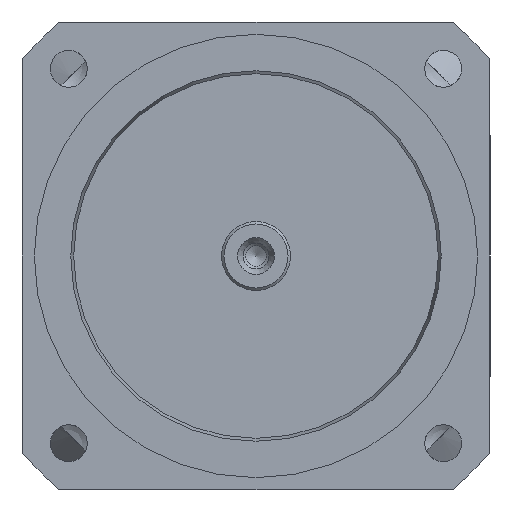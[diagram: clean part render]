
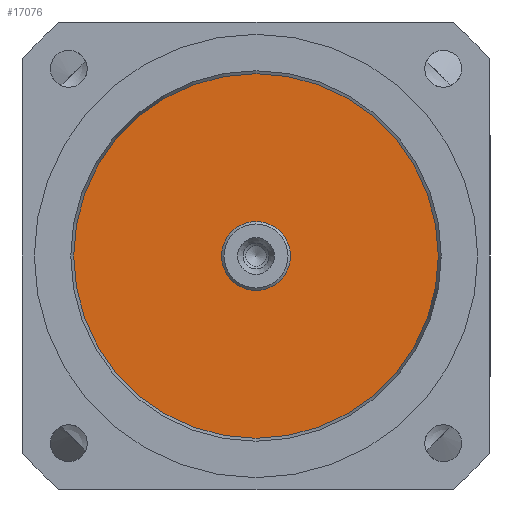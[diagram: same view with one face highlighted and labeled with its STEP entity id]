
A CAD part, left-side view. The second image highlights one B-rep face of the part: STEP entity #17076.
In plain terms, the highlighted planar face has unit normal (-1, 0, 0).
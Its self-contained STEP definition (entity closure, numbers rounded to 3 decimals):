
#3497=PLANE('',#18294);
#4164=FACE_BOUND('',#5502,.T.);
#4423=FACE_OUTER_BOUND('',#5501,.T.);
#5501=EDGE_LOOP('',(#12254));
#5502=EDGE_LOOP('',(#12255));
#6713=CIRCLE('',#18286,14.);
#6717=CIRCLE('',#18295,74.);
#7964=VERTEX_POINT('',#26079);
#7971=VERTEX_POINT('',#26101);
#9642=EDGE_CURVE('',#7964,#7964,#6713,.T.);
#9652=EDGE_CURVE('',#7971,#7971,#6717,.T.);
#12254=ORIENTED_EDGE('',*,*,#9652,.F.);
#12255=ORIENTED_EDGE('',*,*,#9642,.T.);
#17076=ADVANCED_FACE('',(#4423,#4164),#3497,.T.);
#18286=AXIS2_PLACEMENT_3D('',#26080,#20718,#20719);
#18294=AXIS2_PLACEMENT_3D('',#26100,#20740,#20741);
#18295=AXIS2_PLACEMENT_3D('',#26102,#20742,#20743);
#20718=DIRECTION('center_axis',(1.,0.,0.));
#20719=DIRECTION('ref_axis',(0.,0.,-1.));
#20740=DIRECTION('center_axis',(-1.,0.,0.));
#20741=DIRECTION('ref_axis',(0.,0.,1.));
#20742=DIRECTION('center_axis',(1.,0.,0.));
#20743=DIRECTION('ref_axis',(0.,1.,0.));
#26079=CARTESIAN_POINT('',(-130.,0.,14.));
#26080=CARTESIAN_POINT('Origin',(-130.,0.,0.));
#26100=CARTESIAN_POINT('Origin',(-130.,37.,0.));
#26101=CARTESIAN_POINT('',(-130.,74.,0.));
#26102=CARTESIAN_POINT('Origin',(-130.,0.,0.));
